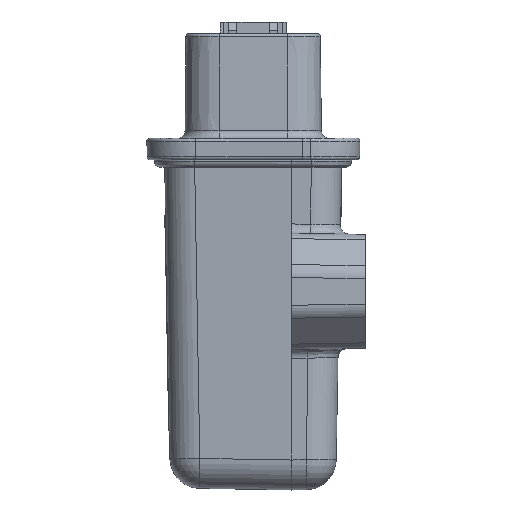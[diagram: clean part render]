
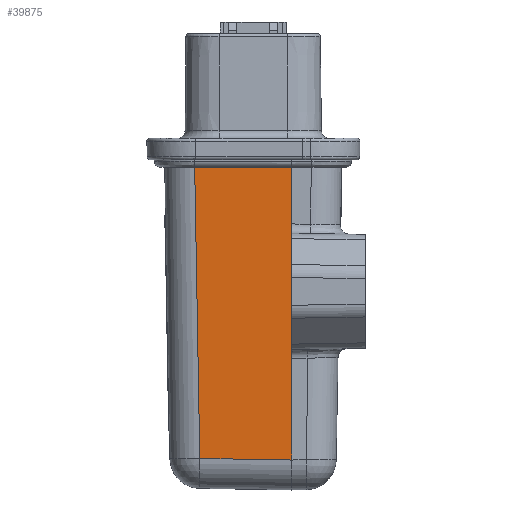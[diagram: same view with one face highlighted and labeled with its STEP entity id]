
A CAD part, left-side view. The second image highlights one B-rep face of the part: STEP entity #39875.
In plain terms, the highlighted planar face has unit normal (-1, 0.018, -0.017).
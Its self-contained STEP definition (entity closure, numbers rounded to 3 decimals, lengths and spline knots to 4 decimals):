
#2923=PLANE('',#41878);
#4593=FACE_OUTER_BOUND('',#6940,.T.);
#6940=EDGE_LOOP('',(#31961,#31962,#31963,#31964,#31965,#31966));
#10483=LINE('',#68719,#14117);
#10578=LINE('',#69653,#14212);
#10579=LINE('',#69657,#14213);
#10580=LINE('',#69659,#14214);
#10581=LINE('',#69661,#14215);
#10582=LINE('',#69662,#14216);
#14117=VECTOR('',#47971,0.3937);
#14212=VECTOR('',#48254,0.3937);
#14213=VECTOR('',#48259,0.3937);
#14214=VECTOR('',#48260,0.3937);
#14215=VECTOR('',#48261,0.3937);
#14216=VECTOR('',#48262,0.3937);
#18175=VERTEX_POINT('',#68370);
#18186=VERTEX_POINT('',#68526);
#18224=VERTEX_POINT('',#68715);
#18226=VERTEX_POINT('',#68718);
#18365=VERTEX_POINT('',#69658);
#18366=VERTEX_POINT('',#69660);
#22873=EDGE_CURVE('',#18226,#18224,#10483,.T.);
#23058=EDGE_CURVE('',#18186,#18175,#10578,.T.);
#23060=EDGE_CURVE('',#18175,#18226,#10579,.T.);
#23061=EDGE_CURVE('',#18365,#18224,#10580,.T.);
#23062=EDGE_CURVE('',#18366,#18365,#10581,.T.);
#23063=EDGE_CURVE('',#18366,#18186,#10582,.T.);
#31961=ORIENTED_EDGE('',*,*,#23058,.T.);
#31962=ORIENTED_EDGE('',*,*,#23060,.T.);
#31963=ORIENTED_EDGE('',*,*,#22873,.T.);
#31964=ORIENTED_EDGE('',*,*,#23061,.F.);
#31965=ORIENTED_EDGE('',*,*,#23062,.F.);
#31966=ORIENTED_EDGE('',*,*,#23063,.T.);
#39875=ADVANCED_FACE('',(#4593),#2923,.T.);
#41878=AXIS2_PLACEMENT_3D('',#69656,#48257,#48258);
#47971=DIRECTION('',(0.017,1.,0.));
#48254=DIRECTION('',(-0.017,0.,1.));
#48257=DIRECTION('center_axis',(-1.,0.017,-0.017));
#48258=DIRECTION('ref_axis',(0.017,1.,0.));
#48259=DIRECTION('',(-0.017,0.,1.));
#48260=DIRECTION('',(-0.017,0.017,1.));
#48261=DIRECTION('',(0.017,1.,0.017));
#48262=DIRECTION('',(-0.017,0.,1.));
#68370=CARTESIAN_POINT('',(-0.7812,0.04,0.5954));
#68526=CARTESIAN_POINT('',(-0.7661,0.04,-0.2727));
#68715=CARTESIAN_POINT('',(-0.7767,0.6663,0.9605));
#68718=CARTESIAN_POINT('',(-0.7876,0.04,0.9605));
#68719=CARTESIAN_POINT('',(-0.7781,0.5818,0.9605));
#69653=CARTESIAN_POINT('',(-0.7898,0.04,1.0902));
#69656=CARTESIAN_POINT('Origin',(-0.7756,0.862,1.0986));
#69657=CARTESIAN_POINT('',(-0.7898,0.04,1.0902));
#69658=CARTESIAN_POINT('',(-0.7444,0.6336,-0.9176));
#69659=CARTESIAN_POINT('',(-0.7788,0.6686,1.0883));
#69660=CARTESIAN_POINT('',(-0.7546,0.04,-0.9279));
#69661=CARTESIAN_POINT('',(-0.7451,0.598,-0.9182));
#69662=CARTESIAN_POINT('',(-0.7898,0.04,1.0902));
